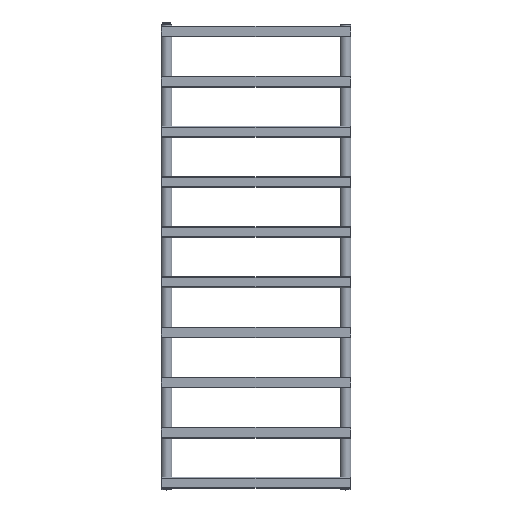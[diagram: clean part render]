
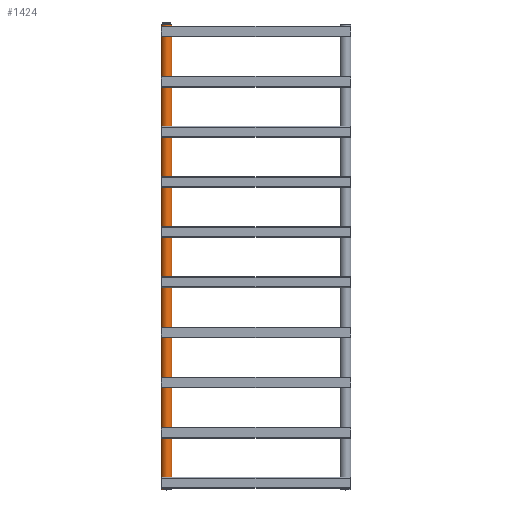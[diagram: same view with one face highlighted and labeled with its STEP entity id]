
A CAD part, top view. The second image highlights one B-rep face of the part: STEP entity #1424.
In plain terms, the highlighted cylindrical face has radius 15 mm (diameter 30 mm), a partial arc.
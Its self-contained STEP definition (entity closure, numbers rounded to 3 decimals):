
#246=DIRECTION('',(0.,1.,0.));
#247=VECTOR('',#246,1298.);
#248=CARTESIAN_POINT('',(235.,1.,0.));
#249=LINE('',#248,#247);
#773=CARTESIAN_POINT('',(250.,1.,0.));
#774=DIRECTION('',(0.,-1.,0.));
#775=DIRECTION('',(-1.,0.,0.));
#776=AXIS2_PLACEMENT_3D('',#773,#774,#775);
#781=DIRECTION('',(0.,1.,0.));
#782=VECTOR('',#781,1298.);
#783=CARTESIAN_POINT('',(265.,1.,0.));
#784=LINE('',#783,#782);
#788=CARTESIAN_POINT('',(250.,1299.,0.));
#789=DIRECTION('',(0.,1.,0.));
#790=DIRECTION('',(1.,0.,0.));
#791=AXIS2_PLACEMENT_3D('',#788,#789,#790);
#1182=CARTESIAN_POINT('',(265.,1.,0.));
#1183=CARTESIAN_POINT('',(235.,1.,0.));
#1184=VERTEX_POINT('',#1182);
#1185=VERTEX_POINT('',#1183);
#1190=CARTESIAN_POINT('',(235.,1299.,0.));
#1191=CARTESIAN_POINT('',(265.,1299.,0.));
#1192=VERTEX_POINT('',#1190);
#1193=VERTEX_POINT('',#1191);
#1412=CARTESIAN_POINT('',(250.,0.,0.));
#1413=DIRECTION('',(0.,1.,0.));
#1414=DIRECTION('',(1.,0.,0.));
#1415=AXIS2_PLACEMENT_3D('',#1412,#1413,#1414);
#1416=CYLINDRICAL_SURFACE('',#1415,15.);
#1417=ORIENTED_EDGE('',*,*,#1406,.T.);
#1418=ORIENTED_EDGE('',*,*,#1352,.T.);
#1420=ORIENTED_EDGE('',*,*,#1419,.T.);
#1421=ORIENTED_EDGE('',*,*,#1348,.F.);
#1422=EDGE_LOOP('',(#1417,#1418,#1420,#1421));
#1423=FACE_OUTER_BOUND('',#1422,.F.);
#777=CIRCLE('',#776,15.);
#792=CIRCLE('',#791,15.);
#1348=EDGE_CURVE('',#1185,#1192,#249,.T.);
#1352=EDGE_CURVE('',#1184,#1193,#784,.T.);
#1406=EDGE_CURVE('',#1185,#1184,#777,.T.);
#1419=EDGE_CURVE('',#1193,#1192,#792,.T.);
#1424=ADVANCED_FACE('',(#1423),#1416,.T.);
